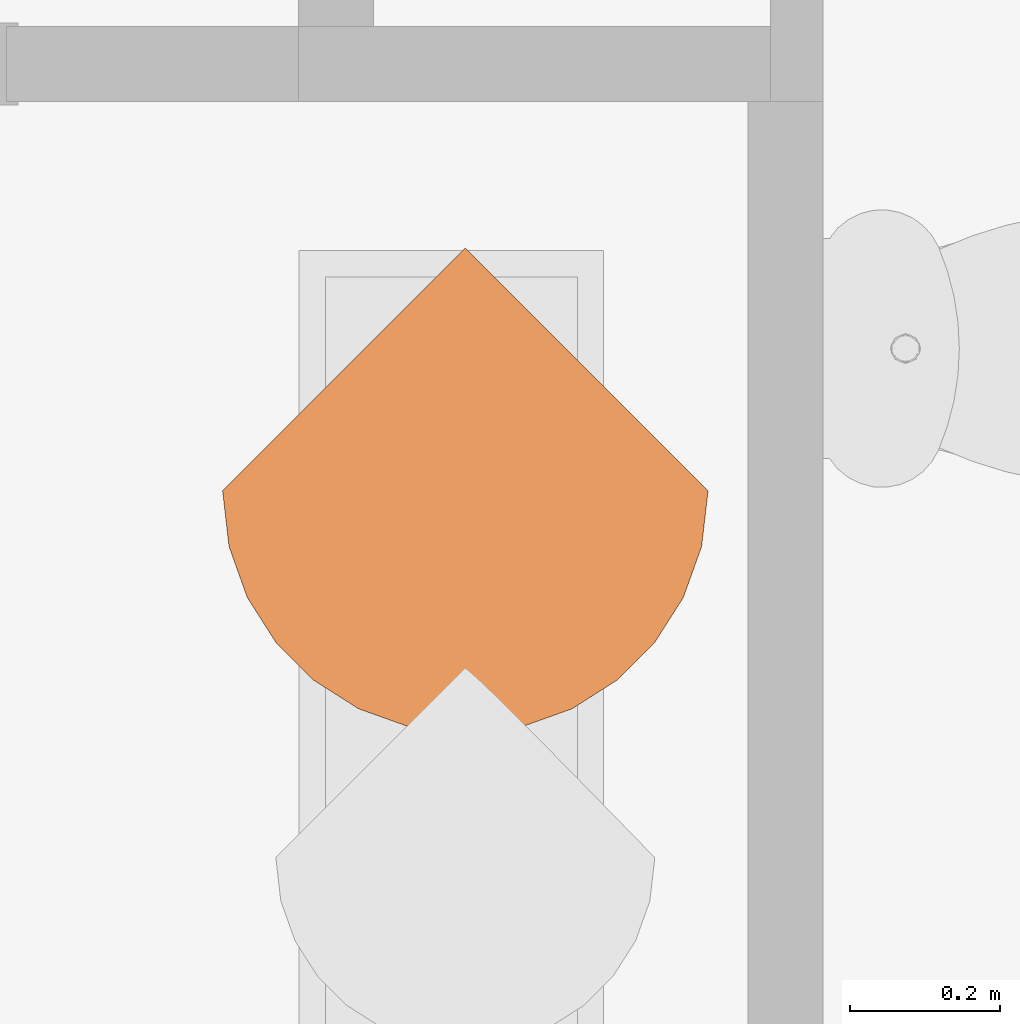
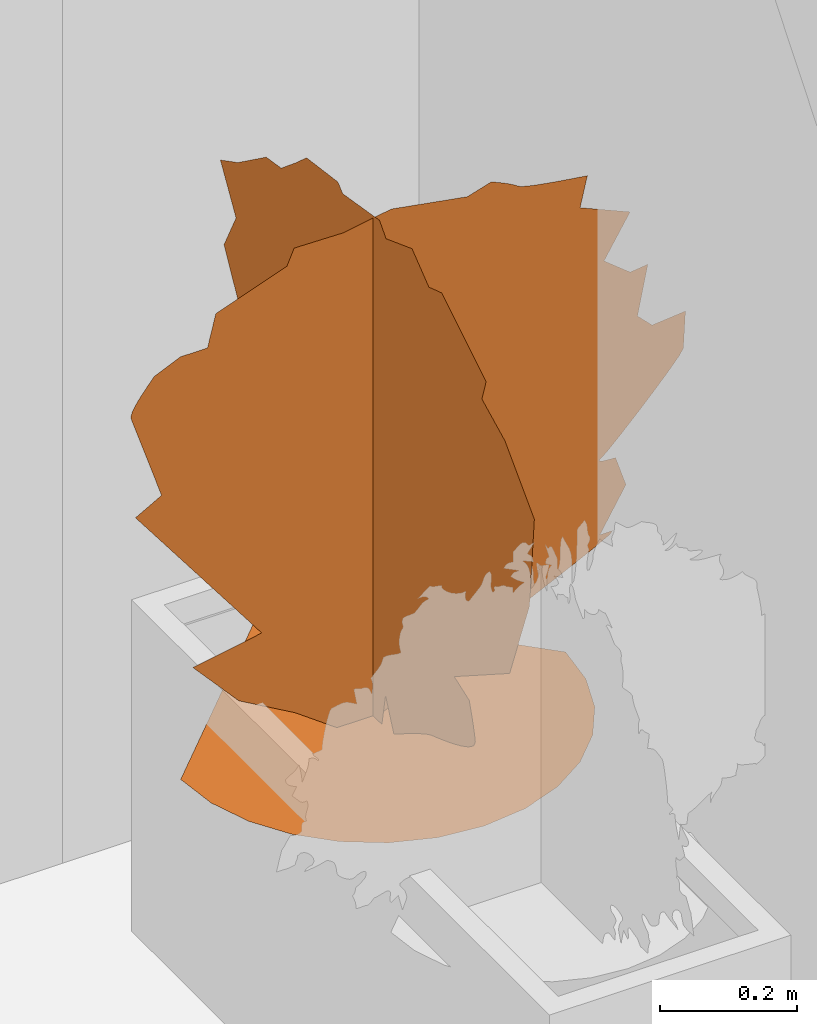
# One storey, part 32 of 32: 1 proxy.
"""IFC2X3 building model written with IfcOpenShell, lengths in metres."""

from ifc_helpers import new_model, entity, si_unit, converted_unit, derived_unit, direction, frame, origin, place, context, subcontext, project, spatial, face_set, surface_model, source, transform, mapped, material, type_object, type_shapes, element, save


model = new_model("IFC2X3")

# Units and contexts
model_context = context("Model", 3, precision=1e-05, world=origin(), true_north=direction((6.12303176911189e-17, 1.0)))
plan_context = context("Plan", 3, precision=1e-05, world=origin(), true_north=direction((6.12303176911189e-17, 1.0)))
body_context = subcontext(model_context, "Body", "Model", "MODEL_VIEW")
ifc_project = project(units=[si_unit("LENGTHUNIT", "METRE"), si_unit("AREAUNIT", "SQUARE_METRE"), si_unit("VOLUMEUNIT", "CUBIC_METRE"), converted_unit("PLANEANGLEUNIT", "DEGREE", entity("IfcRatioMeasure", 0.0174532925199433), si_unit("PLANEANGLEUNIT", "RADIAN"), dimensions=[0, 0, 0, 0, 0, 0, 0]), si_unit("MASSUNIT", "GRAM", prefix="KILO"), derived_unit("MASSDENSITYUNIT", [(si_unit("MASSUNIT", "GRAM", prefix="KILO"), 1), (si_unit("LENGTHUNIT", "METRE"), -3)]), derived_unit("MOMENTOFINERTIAUNIT", [(si_unit("LENGTHUNIT", "METRE"), 4)]), si_unit("TIMEUNIT", "SECOND"), si_unit("FREQUENCYUNIT", "HERTZ"), si_unit("THERMODYNAMICTEMPERATUREUNIT", "DEGREE_CELSIUS"), derived_unit("THERMALTRANSMITTANCEUNIT", [(si_unit("MASSUNIT", "GRAM", prefix="KILO"), 1), (si_unit("THERMODYNAMICTEMPERATUREUNIT", "KELVIN"), -1), (si_unit("TIMEUNIT", "SECOND"), -3)]), derived_unit("VOLUMETRICFLOWRATEUNIT", [(si_unit("LENGTHUNIT", "METRE"), 3), (si_unit("TIMEUNIT", "SECOND"), -1)]), si_unit("ELECTRICCURRENTUNIT", "AMPERE"), si_unit("ELECTRICVOLTAGEUNIT", "VOLT"), si_unit("POWERUNIT", "WATT"), si_unit("FORCEUNIT", "NEWTON", prefix="KILO"), si_unit("ILLUMINANCEUNIT", "LUX"), si_unit("LUMINOUSFLUXUNIT", "LUMEN"), si_unit("LUMINOUSINTENSITYUNIT", "CANDELA"), derived_unit("USERDEFINED", [(si_unit("MASSUNIT", "GRAM", prefix="KILO"), -1), (si_unit("LENGTHUNIT", "METRE"), -2), (si_unit("TIMEUNIT", "SECOND"), 3), (si_unit("LUMINOUSFLUXUNIT", "LUMEN"), 1)]), derived_unit("LINEARVELOCITYUNIT", [(si_unit("LENGTHUNIT", "METRE"), 1), (si_unit("TIMEUNIT", "SECOND"), -1)]), si_unit("PRESSUREUNIT", "PASCAL"), derived_unit("USERDEFINED", [(si_unit("LENGTHUNIT", "METRE"), -2), (si_unit("MASSUNIT", "GRAM", prefix="KILO"), 1), (si_unit("TIMEUNIT", "SECOND"), -2)]), derived_unit("LINEARFORCEUNIT", [(si_unit("MASSUNIT", "GRAM", prefix="KILO"), 1), (si_unit("LENGTHUNIT", "METRE"), 1), (si_unit("TIMEUNIT", "SECOND"), -2), (si_unit("LENGTHUNIT", "METRE"), -1)]), derived_unit("PLANARFORCEUNIT", [(si_unit("MASSUNIT", "GRAM", prefix="KILO"), 1), (si_unit("LENGTHUNIT", "METRE"), 1), (si_unit("TIMEUNIT", "SECOND"), -2), (si_unit("LENGTHUNIT", "METRE"), -2)])], contexts=[model_context, plan_context])

# Site, building, storey, space
site_placement = place(None, origin())
site = spatial("IfcSite", under=ifc_project, at=site_placement, Name="Default", CompositionType="ELEMENT")
building_placement = place(site_placement, origin())
building = spatial("IfcBuilding", under=site, at=building_placement, CompositionType="ELEMENT")
storey_placement = place(building_placement, origin())
storey = spatial("IfcBuildingStorey", under=building, at=storey_placement, Name="0 Mairie RDC 0.00", CompositionType="ELEMENT", Elevation=-1.94916083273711e-14)
space_placement = place(storey_placement, origin())
space = spatial("IfcSpace", under=storey, at=space_placement, Name="16", CompositionType="ELEMENT", InteriorOrExteriorSpace="INTERNAL")

# Proxy
ifc_material = material(Name="<Unnamed>")
building_element_proxy_type = type_object("IfcBuildingElementProxyType", Name="Plantes : RPC Arbuste : Cèdre - 0.9 mètres", PredefinedType="NOTDEFINED", material=ifc_material)
shared_shape = source(origin(), body_context, "Body", "SurfaceModel", [
    surface_model("IfcFaceBasedSurfaceModel", [(0.381880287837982, 6.63913027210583e-08, 0.188270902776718), (0.402967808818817, 6.63913027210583e-08, 0.188270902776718), (0.39824033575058, 6.70448043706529e-08, 0.182788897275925), (0.370085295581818, 6.8874806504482e-08, 0.167438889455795), (-0.22616568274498, 7.62375623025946e-08, 0.105675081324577), (-0.303490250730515, 6.59723024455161e-08, 0.191785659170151), (-0.187503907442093, 6.34585520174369e-08, 0.212873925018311), (0.432842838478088, 1.27610855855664e-08, 0.63815552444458), (0.46271786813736, 1.23421102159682e-08, 0.641668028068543), (0.445145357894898, 2.26072682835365e-08, 0.555557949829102), (0.469747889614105, 2.5540270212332e-08, 0.530955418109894), (0.525982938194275, 2.49116939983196e-08, 0.536227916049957), (0.522467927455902, 3.26630258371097e-08, 0.471205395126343), (-0.400142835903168, 3.01490241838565e-08, 0.492292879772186), (-0.356210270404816, 2.7216022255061e-08, 0.516897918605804), (0.34849028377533, -4.41735341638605e-09, 0.782258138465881), (0.432842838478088, 0.0, 0.745353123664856), (0.388910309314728, 8.57123172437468e-09, 0.673300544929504), (0.337577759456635, -1.11058841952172e-08, 0.838365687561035), (0.360792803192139, -1.07021588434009e-08, 0.834978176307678), (-0.131268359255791, 8.27318196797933e-08, 0.0511970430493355), (0.515330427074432, 3.40005270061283e-08, 0.459985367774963), (0.496790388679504, 3.65915313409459e-08, 0.438250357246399), (0.315162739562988, -1.15077589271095e-08, 0.841735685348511), (0.400790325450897, 5.10520393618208e-08, 0.316947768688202), (0.408240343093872, 5.10982907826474e-08, 0.316557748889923), (0.425812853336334, 5.7592548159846e-08, 0.26208020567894), (-0.145327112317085, -1.25875853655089e-08, 0.850795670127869), (-0.133025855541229, -1.59394879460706e-08, 0.878913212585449), (-0.0504300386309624, -1.57300127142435e-08, 0.877155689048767), (0.393832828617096, 5.0996289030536e-08, 0.317412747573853), (0.387860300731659, 5.09225414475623e-08, 0.318032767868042), (0.383360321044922, 5.08210421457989e-08, 0.318885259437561), (0.380830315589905, 5.06830415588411e-08, 0.320042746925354), (0.471145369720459, 3.99187835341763e-08, 0.410337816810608), (-0.278885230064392, 0.0, 0.752383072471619), (-0.264827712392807, -7.55975585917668e-09, 0.80861815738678), (0.294345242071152, -1.19059843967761e-08, 0.845075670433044), (0.442705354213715, 4.34662865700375e-08, 0.380580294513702), (0.41577284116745, 4.67167894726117e-08, 0.353312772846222), (0.158695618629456, -1.46825369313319e-08, 0.868368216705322), (0.199114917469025, -1.61489880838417e-08, 0.880670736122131), (0.206620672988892, -1.57452627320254e-08, 0.877283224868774), (0.275925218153, -1.22987099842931e-08, 0.848370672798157), (0.394647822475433, 4.91537906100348e-08, 0.332870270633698), (0.383637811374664, 5.0260290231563e-08, 0.323587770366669), (0.38075779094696, 5.04992920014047e-08, 0.321585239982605), (-0.0609735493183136, 8.83880678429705e-08, 3.03610252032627e-09), (0.0145474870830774, 8.88070681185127e-08, 3.03610252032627e-09), (0.101307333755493, 8.40365706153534e-08, 0.0402532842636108), (0.184118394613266, 7.94618121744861e-08, 0.0786283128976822), (0.259120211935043, 7.52793115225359e-08, 0.113714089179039), (0.322412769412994, 7.16848077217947e-08, 0.143865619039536), (0.260705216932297, -1.26840850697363e-08, 0.851603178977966), (0.249478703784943, -1.3060335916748e-08, 0.854760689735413), (0.24304870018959, -1.34255610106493e-08, 0.857823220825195), (0.238770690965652, -1.37908110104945e-08, 0.860888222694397), (0.233570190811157, -1.41670358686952e-08, 0.864043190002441), (0.227601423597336, -1.45524369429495e-08, 0.867275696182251), (0.221017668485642, -1.49451614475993e-08, 0.870570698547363), (0.213972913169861, -1.53433869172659e-08, 0.873910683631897), (0.0304085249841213, -1.74059390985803e-08, 0.891213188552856), (-0.407172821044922, 8.99020709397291e-09, 0.669788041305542), (-0.324577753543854, 0.0, 0.752383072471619), (-0.368512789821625, 1.44845363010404e-09, 0.733050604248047), (-0.377847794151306, 2.78970233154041e-09, 0.721800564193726), (-0.386705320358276, 4.09795336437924e-09, 0.710825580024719), (-0.394610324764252, 5.3402545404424e-09, 0.700405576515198), (-0.401087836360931, 6.48363011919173e-09, 0.690813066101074), (-0.405657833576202, 7.49505617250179e-09, 0.682328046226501), (-0.407845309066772, 8.3415815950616e-09, 0.675228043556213), (4.5144284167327e-05, 0.41211281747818, 0.32710274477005), (4.51327875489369e-05, 0.438472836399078, 0.406182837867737), (4.5144284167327e-05, 0.348847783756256, 0.409697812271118), (4.52010354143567e-05, -0.0656420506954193, 0.0069814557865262), (4.52010354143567e-05, -0.0606157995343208, 0.00374855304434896), (4.52010354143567e-05, -0.0360127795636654, 0.0582265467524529), (4.51327875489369e-05, 0.399812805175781, 0.643425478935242), (4.51327875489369e-05, 0.445502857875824, 0.718993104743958), (4.51327875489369e-05, 0.394540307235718, 0.745353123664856), (4.52010354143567e-05, -0.0788760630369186, 0.0154095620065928), (3.86332825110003e-07, -0.0254687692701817, 0.0), (3.74970308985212e-07, 0.0254947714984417, 6.07530474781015e-09), (4.51895343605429e-05, 0.0342815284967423, 0.0564692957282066), (4.51555368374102e-05, 0.285582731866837, 0.195300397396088), (4.52010354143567e-05, -0.0975510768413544, 0.0271270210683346), (4.51895343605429e-05, -0.19944716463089, 0.873640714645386), (4.52122880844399e-05, -0.329492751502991, 0.794558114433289), (4.52122880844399e-05, -0.317190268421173, 0.755898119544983), (4.51895343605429e-05, -0.162542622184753, 0.861338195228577), (4.51782861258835e-05, -0.0377702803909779, 0.871883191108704), (4.51782861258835e-05, -0.113336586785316, 0.900000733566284), (4.52122880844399e-05, -0.118900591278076, 0.0402277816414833), (4.51555368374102e-05, 0.0887593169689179, 0.875398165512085), (4.51667850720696e-05, -0.0184393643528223, 0.892970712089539), (4.5144284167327e-05, 0.385752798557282, 0.485265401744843), (4.51327875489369e-05, 0.434957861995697, 0.574890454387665), (4.52122880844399e-05, -0.236351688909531, 0.212873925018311), (4.522378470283e-05, -0.280285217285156, 0.197057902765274), (4.522378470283e-05, -0.283287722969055, 0.188019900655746), (4.5144284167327e-05, 0.311942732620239, 0.805103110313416), (4.5144284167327e-05, 0.268010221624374, 0.812133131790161), (4.52122880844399e-05, -0.38397031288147, 0.722508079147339), (4.522378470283e-05, -0.470080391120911, 0.634640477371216), (4.52350373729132e-05, -0.456020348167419, 0.471205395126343), (4.51555368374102e-05, 0.194200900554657, 0.875398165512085), (4.51555368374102e-05, 0.1028183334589, 0.887698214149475), (4.51782861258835e-05, 0.132693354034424, 0.117976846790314), (4.522378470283e-05, -0.398027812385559, 0.316557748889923), (4.5144284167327e-05, 0.225833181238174, 0.847280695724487), (4.52122880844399e-05, -0.140158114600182, 0.052806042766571), (4.52122880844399e-05, -0.1585563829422, 0.0629555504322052), (4.52122880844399e-05, -0.171329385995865, 0.0687708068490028), (4.52122880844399e-05, -0.185162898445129, 0.0734793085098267), (4.52122880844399e-05, -0.206251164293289, 0.0810465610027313), (4.52122880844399e-05, -0.231089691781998, 0.0906738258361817), (4.522378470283e-05, -0.256175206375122, 0.10156107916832), (4.522378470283e-05, -0.286227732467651, 0.178982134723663), (4.522378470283e-05, -0.289047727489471, 0.169944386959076), (4.522378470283e-05, -0.278000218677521, 0.112909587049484), (4.522378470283e-05, -0.291680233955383, 0.160906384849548), (4.522378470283e-05, -0.294067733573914, 0.151868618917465), (4.522378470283e-05, -0.293062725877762, 0.123920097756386), (4.522378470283e-05, -0.29614773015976, 0.14283086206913), (4.522378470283e-05, -0.297860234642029, 0.133792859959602), (0.324080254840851, 2.83320229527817e-08, 9.3938073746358e-08), (-4.54510347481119e-08, 0.324080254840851, 8.71203163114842e-08), (-0.324080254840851, 0.0, 9.3938073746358e-08), (0.315512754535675, -0.0742575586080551, 8.50858168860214e-08), (-0.315512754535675, -0.0742575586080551, 8.50858168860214e-08), (0.291112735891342, -0.142451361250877, 7.69565600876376e-08), (-0.291112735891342, -0.142451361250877, 7.69565600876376e-08), (-0.252832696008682, -0.202627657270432, 1.15233842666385e-07), (0.252832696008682, -0.202627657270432, 1.15233842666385e-07), (0.202627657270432, -0.252832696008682, 1.09249087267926e-07), (-0.202627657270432, -0.252832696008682, 1.09249087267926e-07), (-0.142451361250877, -0.291112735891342, 1.04685833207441e-07), (-0.0742575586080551, -0.315512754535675, 1.01777078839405e-07), (1.1362733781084e-08, -0.324080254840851, 1.00755579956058e-07), (0.0742578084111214, -0.315512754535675, 1.01777078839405e-07), (0.142451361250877, -0.291112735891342, 1.04685833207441e-07)], [face_set([[[0, 1, 2]], [[0, 2, 3]], [[4, 5, 6]], [[7, 8, 9]], [[10, 11, 12]], [[6, 13, 14]], [[15, 16, 17]], [[18, 19, 15]], [[20, 4, 6]], [[10, 12, 21]], [[10, 21, 22]], [[23, 18, 15]], [[24, 25, 26]], [[27, 28, 29]], [[30, 24, 26]], [[30, 26, 0]], [[31, 30, 0]], [[32, 31, 0]], [[33, 32, 0]], [[10, 22, 34]], [[35, 36, 27]], [[37, 23, 15]], [[10, 34, 38]], [[9, 10, 38]], [[9, 38, 39]], [[17, 7, 9]], [[40, 41, 42]], [[43, 37, 15]], [[9, 39, 44]], [[17, 9, 44]], [[17, 44, 45]], [[17, 45, 46]], [[47, 20, 6]], [[48, 47, 6]], [[49, 48, 6]], [[50, 49, 6]], [[51, 50, 6]], [[51, 6, 14]], [[52, 51, 14]], [[3, 52, 14]], [[0, 3, 14]], [[33, 0, 14]], [[46, 33, 14]], [[17, 46, 14]], [[15, 17, 14]], [[43, 15, 14]], [[53, 43, 14]], [[54, 53, 14]], [[55, 54, 14]], [[56, 55, 14]], [[57, 56, 14]], [[58, 57, 14]], [[59, 58, 14]], [[60, 59, 14]], [[42, 60, 14]], [[40, 42, 14]], [[61, 40, 14]], [[29, 61, 14]], [[27, 29, 14]], [[35, 27, 14]], [[35, 14, 62]], [[63, 35, 62]], [[64, 63, 62]], [[65, 64, 62]], [[66, 65, 62]], [[67, 66, 62]], [[68, 67, 62]], [[69, 68, 62]], [[70, 69, 62]], [[71, 72, 73]], [[74, 75, 76]], [[77, 78, 79]], [[80, 74, 76]], [[76, 81, 82]], [[76, 82, 83]], [[84, 71, 73]], [[85, 80, 76]], [[86, 87, 88]], [[89, 86, 88]], [[90, 91, 89]], [[92, 85, 76]], [[93, 94, 90]], [[95, 96, 77]], [[97, 98, 99]], [[77, 79, 100]], [[77, 100, 101]], [[102, 103, 104]], [[105, 106, 93]], [[88, 102, 104]], [[107, 84, 73]], [[88, 104, 108]], [[88, 108, 97]], [[89, 88, 97]], [[90, 89, 97]], [[93, 90, 97]], [[105, 93, 97]], [[109, 105, 97]], [[101, 109, 97]], [[77, 101, 97]], [[95, 77, 97]], [[73, 95, 97]], [[107, 73, 97]], [[83, 107, 97]], [[76, 83, 97]], [[92, 76, 97]], [[110, 92, 97]], [[111, 110, 97]], [[112, 111, 97]], [[113, 112, 97]], [[114, 113, 97]], [[115, 114, 97]], [[116, 115, 97]], [[116, 97, 99]], [[116, 99, 117]], [[116, 117, 118]], [[119, 116, 118]], [[119, 118, 120]], [[119, 120, 121]], [[122, 119, 121]], [[122, 121, 123]], [[124, 122, 123]], [[125, 126, 127]], [[128, 125, 127]], [[128, 127, 129]], [[130, 128, 129]], [[130, 129, 131]], [[130, 131, 132]], [[133, 130, 132]], [[134, 133, 132]], [[134, 132, 135]], [[134, 135, 136]], [[134, 136, 137]], [[134, 137, 138]], [[134, 138, 139]], [[134, 139, 140]]])]),
])
type_shapes(building_element_proxy_type, [shared_shape])
proxy_placement = place(space_placement, frame((-5.30485734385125, -5.49815138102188, 0.5)))
element("IfcBuildingElementProxy", 1, at=proxy_placement, inside=space, type_object=building_element_proxy_type, material=ifc_material, Name="Plantes : RPC Arbuste : Cèdre - 0.9 mètres", ObjectType="RPC Arbuste:Cèdre - 0.9 mètres", context=body_context, shape_type="MappedRepresentation", body=[
    mapped(shared_shape, transform((0.0, 0.0, 0.0), scale=1.0)),
])

save(model, "model.ifc")
